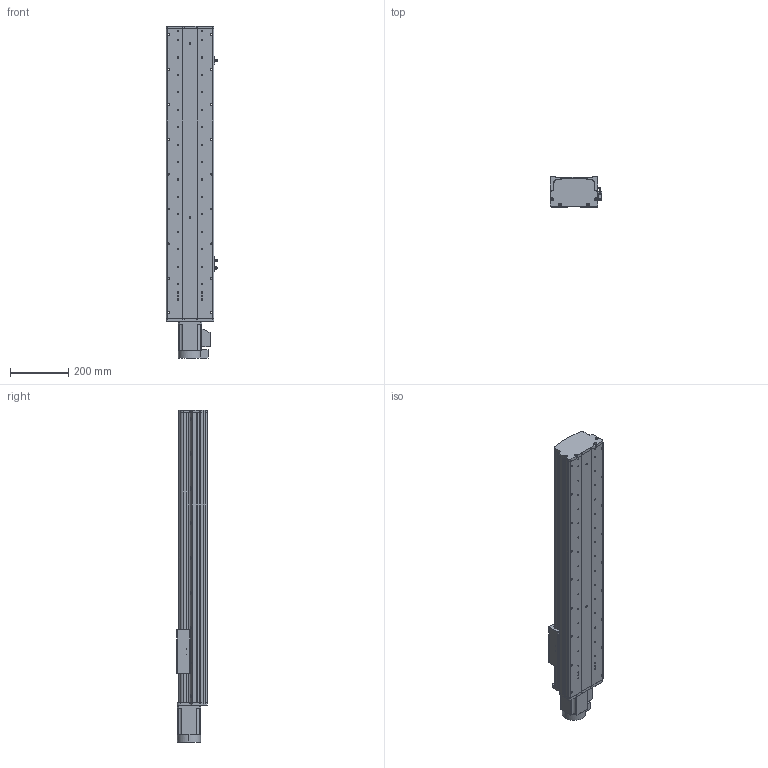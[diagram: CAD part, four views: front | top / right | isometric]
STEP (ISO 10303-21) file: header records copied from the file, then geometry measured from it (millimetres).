
FILE_DESCRIPTION (( 'STEP AP214' ), '1' );
FILE_NAME ('KSD165S-S700-MN-CM .STEP', '2017-08-07T08:14:17', ( '微软用户' ), ( '微软中国' ), 'SwSTEP 2.0', 'SolidWorks 2014', '' );
FILE_SCHEMA (( 'AUTOMOTIVE_DESIGN' ));
Length unit declared in the file: millimetre
Products named in the file (12): KSD165模组底板-700行程-直连不带电机座; 拸秶雄ん750W侜督萇儂; KSD165模组-直连不带电机座电机连接板; KSD165耀郪-佪裝-滅袉菜-3 -; C44ㄜ1912WP; 覜茼え68遵圉猾敕; U倰嫖萇假蚾璃; U倰嫖萇EEㄜSX672; KSD165耀郪-綴傷啣1; KSD165模组-丝杆滑动座-最新版; KSD165S-S700-MN-CM ; KSD165模组-防尘盖1-700行程-直连不带电机座
Assembly tree (15 placements, depth 2):
  KSD165S-S700-MN-CM 
    KSD165模组-丝杆滑动座-最新版
    KSD165耀郪-綴傷啣1
    U倰嫖萇EEㄜSX672  x3
    U倰嫖萇假蚾璃  x3
    覜茼え68遵圉猾敕
    C44ㄜ1912WP
    KSD165耀郪-佪裝-滅袉菜-3 -
    KSD165模组-直连不带电机座电机连接板
    拸秶雄ん750W侜督萇儂
    KSD165模组底板-700行程-直连不带电机座
    KSD165模组-防尘盖1-700行程-直连不带电机座
Bounding box: 178.7 x 104 x 1143 mm (x, y, z)
Volume: 6511435.2 mm3; surface area: 1432170 mm2
Topology: 16 solids, 16 shells, 1219 faces, 3412 edges, 2213 vertices
Faces by surface type: cylinder 647, plane 495, cone 77
Entity records: 38535 total; most frequent: CARTESIAN_POINT 8619, DIRECTION 5725, ORIENTED_EDGE 5504, EDGE_CURVE 2752, AXIS2_PLACEMENT_3D 2151, VERTEX_POINT 1805, LINE 1423, VECTOR 1423
